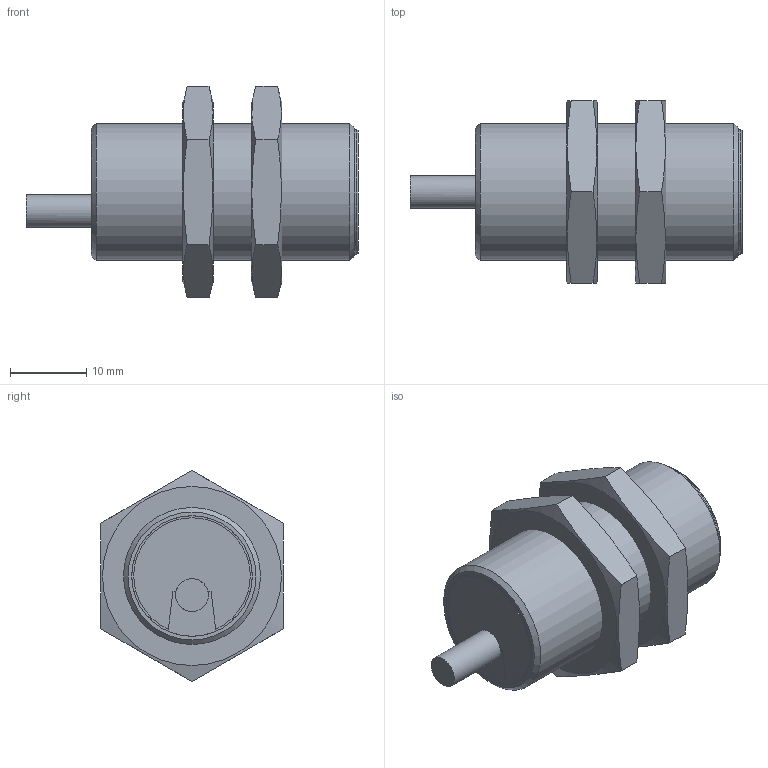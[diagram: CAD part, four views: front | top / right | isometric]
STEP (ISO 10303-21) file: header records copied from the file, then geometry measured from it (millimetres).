
FILE_DESCRIPTION( ( 'Unknown' ), '1' );
FILE_NAME( 'X:/SolidEdge/Models/Dokumentationen/Induktiv/IR18/vereinfachte Modelle/Neutralformate/IR18.xxxx-F35.xxxx.7BCV.stp', 'Unknown', ( 'Unknown' ), ( 'Unknown' ), 'PSStep 15.0.49', 'Unknown', ' ' );
FILE_SCHEMA( ( 'AUTOMOTIVE_DESIGN { 1 0 10303 214 1 1 1 1 }' ) );
Length unit declared in the file: millimetre
Products named in the file (3): Assem1; IR18.xxxx-F35.xxxx.7BCV_oA; 101474
Assembly tree (3 placements, depth 2):
  Assem1
    IR18.xxxx-F35.xxxx.7BCV_oA
    101474  x2
Bounding box: 43.6 x 24 x 27.71 mm (x, y, z)
Volume: 11137.1 mm3; surface area: 4678.1 mm2
Topology: 3 solids, 3 shells, 52 faces, 129 edges, 86 vertices
Faces by surface type: plane 26, cylinder 18, cone 8
Full cylindrical faces by diameter (mm): 4.3 x1, 16.4 x1, 16.917 x2, 18 x1
Entity records: 1346 total; most frequent: CARTESIAN_POINT 257, DIRECTION 164, ORIENTED_EDGE 136, AXIS2_PLACEMENT_3D 69, EDGE_CURVE 68, EDGE_LOOP 50, VERTEX_POINT 50, FACE_OUTER_BOUND 39
